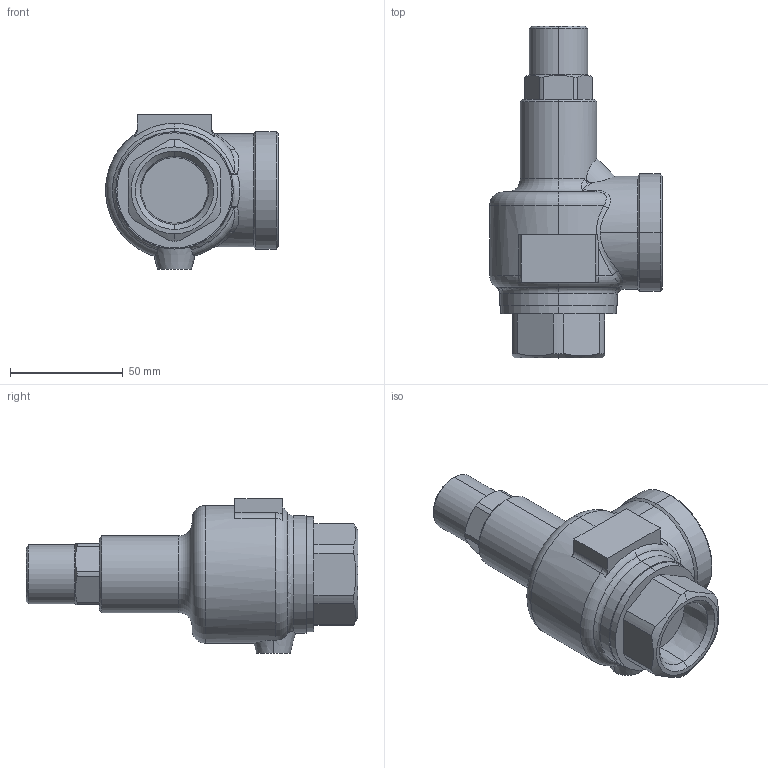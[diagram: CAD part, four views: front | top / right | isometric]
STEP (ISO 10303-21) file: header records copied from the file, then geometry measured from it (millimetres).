
FILE_DESCRIPTION (( 'STEP AP203' ), '1' );
FILE_NAME ('AL-150H 25A.STEP', '2026-01-13T01:08:25', ( '' ), ( '' ), 'SwSTEP 2.0', 'SolidWorks 2024', '' );
FILE_SCHEMA (( 'CONFIG_CONTROL_DESIGN' ));
Length unit declared in the file: millimetre
Products named in the file (1): AL-150H 25A
Bounding box: 76.5 x 147 x 68.5 mm (x, y, z)
Volume: 245980.9 mm3; surface area: 31498.3 mm2
Topology: 1 solids, 1 shells, 110 faces, 268 edges, 165 vertices
Faces by surface type: cylinder 34, plane 27, cone 22, bspline 13, torus 12, sphere 2
Entity records: 4615 total; most frequent: CARTESIAN_POINT 2034, ORIENTED_EDGE 536, DIRECTION 521, EDGE_CURVE 268, AXIS2_PLACEMENT_3D 216, VERTEX_POINT 165, CIRCLE 118, EDGE_LOOP 115
